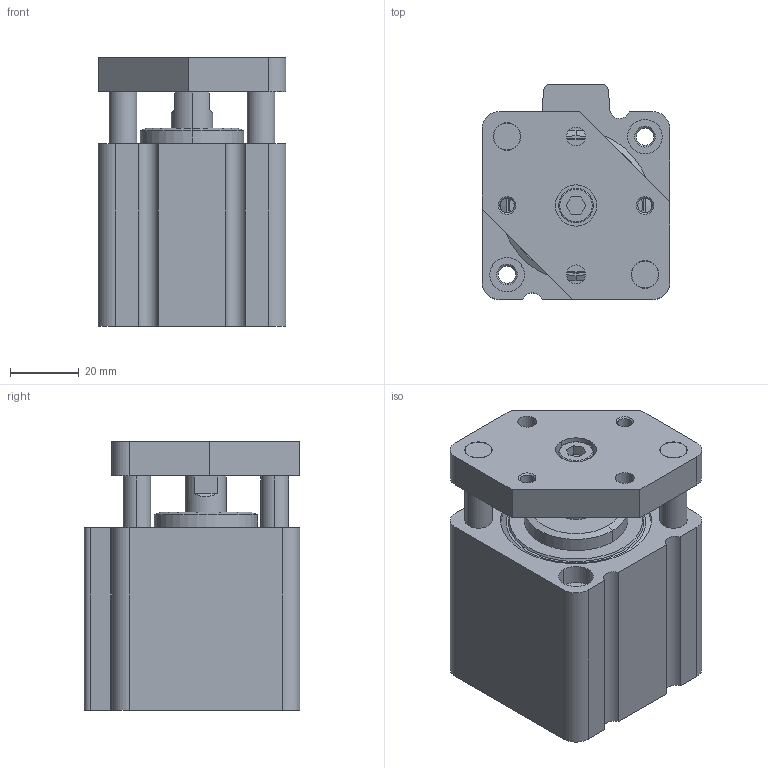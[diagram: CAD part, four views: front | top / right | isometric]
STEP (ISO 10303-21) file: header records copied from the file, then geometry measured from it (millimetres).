
FILE_DESCRIPTION((''),'2;1');
FILE_NAME('0822010753_ASM','2015-07-01T',('vol1hc'),(''),'PRO/ENGINEER BY PARAMETRIC TECHNOLOGY CORPORATION, 2012421','PRO/ENGINEER BY PARAMETRIC TECHNOLOGY CORPORATION, 2012421','');
FILE_SCHEMA(('CONFIG_CONTROL_DESIGN','SHAPE_APPEARANCE_LAYERS_GROUPS'));
Length unit declared in the file: millimetre
Products named in the file (3): 0822010753-A; 0822010753-B; 0822010753_ASM
Assembly tree (2 placements, depth 2):
  0822010753_ASM
    0822010753-A
    0822010753-B
Bounding box: 54.5 x 62.5 x 78 mm (x, y, z)
Volume: 159842.2 mm3; surface area: 49762.3 mm2
Topology: 2 solids, 2 shells, 184 faces, 422 edges, 270 vertices
Faces by surface type: cylinder 82, plane 62, cone 34, torus 6
Entity records: 5421 total; most frequent: DIRECTION 1008, CARTESIAN_POINT 930, ORIENTED_EDGE 844, EDGE_CURVE 422, AXIS2_PLACEMENT_3D 407, VERTEX_POINT 270, EDGE_LOOP 228, CIRCLE 218
